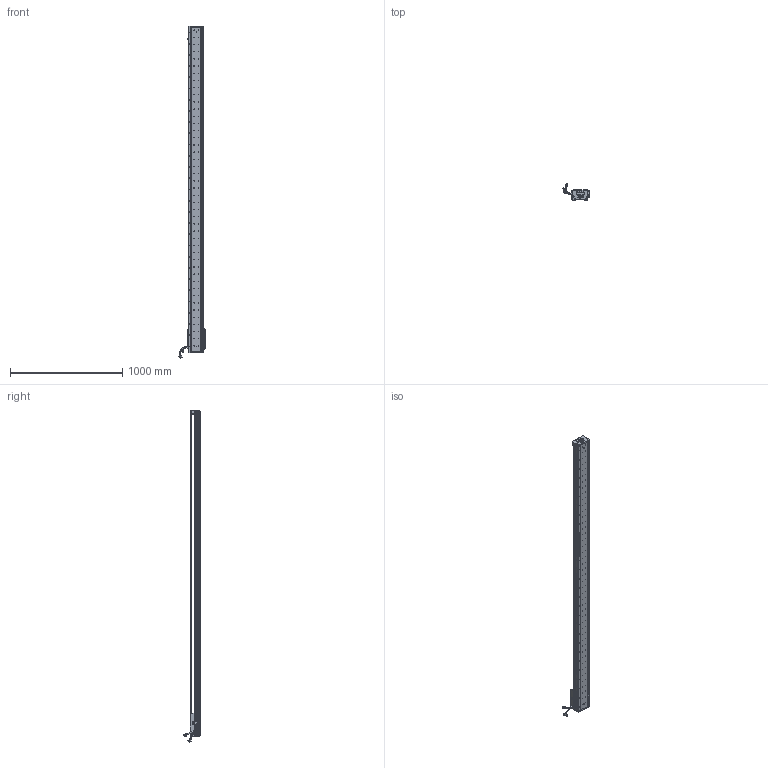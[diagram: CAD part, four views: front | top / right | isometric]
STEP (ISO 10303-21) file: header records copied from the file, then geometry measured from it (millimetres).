
FILE_DESCRIPTION (( 'STEP AP203' ), '1' );
FILE_NAME ('Z2-RY140D-1-L500-B-K.SLDASM_2650.step', '2021-05-17T07:50:37', ( '盈信电脑' ), ( '东莞市道滘镇水果街19号' ), 'SwSTEP 2.0', 'SolidWorks 2016', '' );
FILE_SCHEMA (( 'CONFIG_CONTROL_DESIGN' ));
Length unit declared in the file: millimetre
Products named in the file (36): HARNESS; Z-RY140詩湍奻揤裔; COVER-Part-1; SEAL; SCREW-M1.6-1; HARNESS-Part-2; HARNESS-Part-1; SCALE-Part-2; Z2-RY140-L500直线电机模组底座_2650; SEAL-Part-1; Z2-RY140-L500詩湍100mm遵_2650; Z-140詩湍傷裔啣; SCREW-M1.7; SCREW-M1.7-1; LABEL-Part-1; SCREW-M1.6-3; Z2-RY140D-1-L500-B-K.SLDASM_2650; HOLDER0; SCREW-M1.6; SCALE; 榋妏寠巭燃_暯_M2_2; COVER; Z-RY140感应器672光电感应片; PBU_SHEET; PSLH080_PSLF2; LABEL; SHIELDPLATE; SCREW-M1.6-2; Z-RY140詩湍狟揤裔; 覜茼ん672; Z2-RY140圉猾敕臏賑輸(21遴); 080黍杅芛假蚾釱21遴; 140雄赽晤鎢ん堤盄; 140-Z-臏賑輸盄裔(21遴); 140蚥薯蝶輸; SCALE-Part-1
Assembly tree (41 placements, depth 4):
  Z2-RY140D-1-L500-B-K.SLDASM_2650
    Z2-RY140-L500直线电机模组底座_2650
    Z-RY140感应器672光电感应片
    Z2-RY140圉猾敕臏賑輸(21遴)
    覜茼ん672  x3
    Z2-RY140-L500詩湍100mm遵_2650
    PSLH080_PSLF2
      SCALE
        SCALE-Part-1
        SCALE-Part-2
      HARNESS
        HARNESS-Part-1
        HARNESS-Part-2
      LABEL
        LABEL-Part-1
      COVER
        COVER-Part-1
      SEAL
        SEAL-Part-1
      榋妏寠巭燃_暯_M2_2
      SHIELDPLATE
      SCREW-M1.7
      SCREW-M1.7-1
      PBU_SHEET
      SCREW-M1.6
      SCREW-M1.6-1
      SCREW-M1.6-2
      SCREW-M1.6-3
      HOLDER0
    080黍杅芛假蚾釱21遴
    140-Z-臏賑輸盄裔(21遴)
    Z-140詩湍傷裔啣  x2
    Z-RY140詩湍狟揤裔  x2
    Z-RY140詩湍奻揤裔  x2
    140蚥薯蝶輸  x2
    140雄赽晤鎢ん堤盄
Bounding box: 239.79 x 143.77 x 2960.87 mm (x, y, z)
Volume: 9189366 mm3; surface area: 2416677 mm2
Topology: 36 solids, 36 shells, 4324 faces, 11816 edges, 7487 vertices
Faces by surface type: cylinder 2374, plane 1408, cone 410, torus 79, bspline 53
Entity records: 138740 total; most frequent: CARTESIAN_POINT 39835, ORIENTED_EDGE 20520, DIRECTION 18824, EDGE_CURVE 10260, AXIS2_PLACEMENT_3D 7012, VERTEX_POINT 6655, VECTOR 4800, LINE 4800
